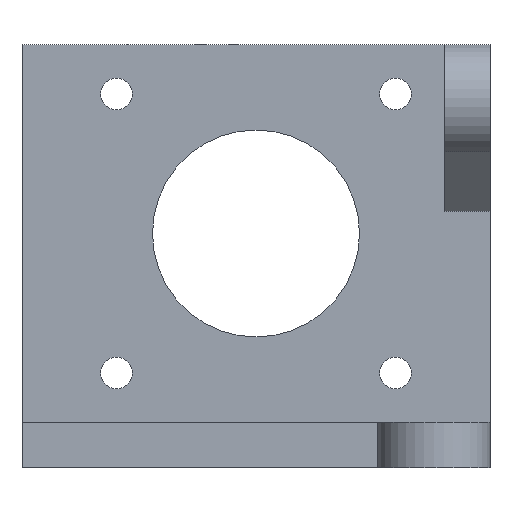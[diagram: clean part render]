
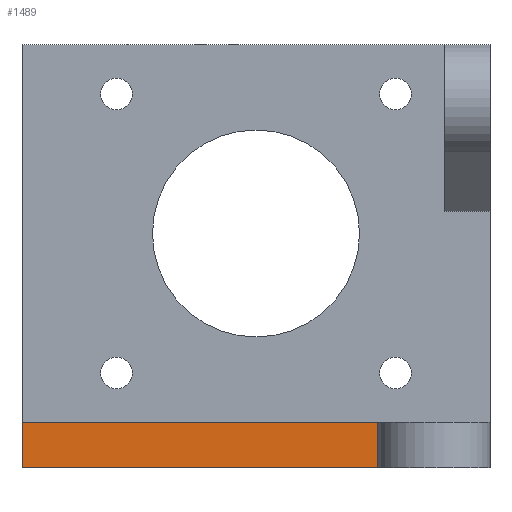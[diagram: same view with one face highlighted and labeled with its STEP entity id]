
A CAD part, front view. The second image highlights one B-rep face of the part: STEP entity #1489.
In plain terms, the highlighted planar face has unit normal (0, -1, 0).
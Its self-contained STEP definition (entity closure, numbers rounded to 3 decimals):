
#154 = PLANE('',#155);
#155 = AXIS2_PLACEMENT_3D('',#156,#157,#158);
#156 = CARTESIAN_POINT('',(0.,0.,21.));
#157 = DIRECTION('',(0.,1.,0.));
#158 = DIRECTION('',(0.,0.,1.));
#170 = VERTEX_POINT('',#171);
#171 = CARTESIAN_POINT('',(-26.,0.,0.));
#187 = PLANE('',#188);
#188 = AXIS2_PLACEMENT_3D('',#189,#190,#191);
#189 = CARTESIAN_POINT('',(-26.,0.,0.));
#190 = DIRECTION('',(1.,0.,0.));
#191 = DIRECTION('',(0.,1.,0.));
#509 = VERTEX_POINT('',#510);
#510 = CARTESIAN_POINT('',(13.5,0.,0.));
#536 = EDGE_CURVE('',#509,#170,#537,.T.);
#537 = SURFACE_CURVE('',#538,(#542,#549),.PCURVE_S1.);
#538 = LINE('',#539,#540);
#539 = CARTESIAN_POINT('',(26.,0.,0.));
#540 = VECTOR('',#541,1.);
#541 = DIRECTION('',(-1.,0.,0.));
#542 = PCURVE('',#154,#543);
#543 = DEFINITIONAL_REPRESENTATION('',(#544),#548);
#544 = LINE('',#545,#546);
#545 = CARTESIAN_POINT('',(-21.,26.));
#546 = VECTOR('',#547,1.);
#547 = DIRECTION('',(0.,-1.));
#548 = ( GEOMETRIC_REPRESENTATION_CONTEXT(2) 
PARAMETRIC_REPRESENTATION_CONTEXT() REPRESENTATION_CONTEXT('2D SPACE',''
  ) );
#549 = PCURVE('',#550,#555);
#550 = PLANE('',#551);
#551 = AXIS2_PLACEMENT_3D('',#552,#553,#554);
#552 = CARTESIAN_POINT('',(26.,0.,0.));
#553 = DIRECTION('',(0.,1.,0.));
#554 = DIRECTION('',(-1.,0.,0.));
#555 = DEFINITIONAL_REPRESENTATION('',(#556),#560);
#556 = LINE('',#557,#558);
#557 = CARTESIAN_POINT('',(0.,0.));
#558 = VECTOR('',#559,1.);
#559 = DIRECTION('',(1.,0.));
#560 = ( GEOMETRIC_REPRESENTATION_CONTEXT(2) 
PARAMETRIC_REPRESENTATION_CONTEXT() REPRESENTATION_CONTEXT('2D SPACE',''
  ) );
#1110 = EDGE_CURVE('',#170,#1111,#1113,.T.);
#1111 = VERTEX_POINT('',#1112);
#1112 = CARTESIAN_POINT('',(-26.,0.,-5.));
#1113 = SURFACE_CURVE('',#1114,(#1118,#1125),.PCURVE_S1.);
#1114 = LINE('',#1115,#1116);
#1115 = CARTESIAN_POINT('',(-26.,0.,0.));
#1116 = VECTOR('',#1117,1.);
#1117 = DIRECTION('',(-0.,-0.,-1.));
#1118 = PCURVE('',#187,#1119);
#1119 = DEFINITIONAL_REPRESENTATION('',(#1120),#1124);
#1120 = LINE('',#1121,#1122);
#1121 = CARTESIAN_POINT('',(0.,0.));
#1122 = VECTOR('',#1123,1.);
#1123 = DIRECTION('',(0.,-1.));
#1124 = ( GEOMETRIC_REPRESENTATION_CONTEXT(2) 
PARAMETRIC_REPRESENTATION_CONTEXT() REPRESENTATION_CONTEXT('2D SPACE',''
  ) );
#1125 = PCURVE('',#550,#1126);
#1126 = DEFINITIONAL_REPRESENTATION('',(#1127),#1131);
#1127 = LINE('',#1128,#1129);
#1128 = CARTESIAN_POINT('',(52.,0.));
#1129 = VECTOR('',#1130,1.);
#1130 = DIRECTION('',(0.,-1.));
#1131 = ( GEOMETRIC_REPRESENTATION_CONTEXT(2) 
PARAMETRIC_REPRESENTATION_CONTEXT() REPRESENTATION_CONTEXT('2D SPACE',''
  ) );
#1149 = PLANE('',#1150);
#1150 = AXIS2_PLACEMENT_3D('',#1151,#1152,#1153);
#1151 = CARTESIAN_POINT('',(0.,44.727,-5.));
#1152 = DIRECTION('',(0.,0.,1.));
#1153 = DIRECTION('',(1.,0.,0.));
#1489 = ADVANCED_FACE('',(#1490),#550,.F.);
#1490 = FACE_BOUND('',#1491,.F.);
#1491 = EDGE_LOOP('',(#1492,#1493,#1521,#1542));
#1492 = ORIENTED_EDGE('',*,*,#536,.F.);
#1493 = ORIENTED_EDGE('',*,*,#1494,.T.);
#1494 = EDGE_CURVE('',#509,#1495,#1497,.T.);
#1495 = VERTEX_POINT('',#1496);
#1496 = CARTESIAN_POINT('',(13.5,0.,-5.));
#1497 = SURFACE_CURVE('',#1498,(#1502,#1509),.PCURVE_S1.);
#1498 = LINE('',#1499,#1500);
#1499 = CARTESIAN_POINT('',(13.5,0.,0.));
#1500 = VECTOR('',#1501,1.);
#1501 = DIRECTION('',(-0.,-0.,-1.));
#1502 = PCURVE('',#550,#1503);
#1503 = DEFINITIONAL_REPRESENTATION('',(#1504),#1508);
#1504 = LINE('',#1505,#1506);
#1505 = CARTESIAN_POINT('',(12.5,0.));
#1506 = VECTOR('',#1507,1.);
#1507 = DIRECTION('',(0.,-1.));
#1508 = ( GEOMETRIC_REPRESENTATION_CONTEXT(2) 
PARAMETRIC_REPRESENTATION_CONTEXT() REPRESENTATION_CONTEXT('2D SPACE',''
  ) );
#1509 = PCURVE('',#1510,#1515);
#1510 = PLANE('',#1511);
#1511 = AXIS2_PLACEMENT_3D('',#1512,#1513,#1514);
#1512 = CARTESIAN_POINT('',(13.5,0.,0.));
#1513 = DIRECTION('',(-1.,0.,0.));
#1514 = DIRECTION('',(0.,-1.,0.));
#1515 = DEFINITIONAL_REPRESENTATION('',(#1516),#1520);
#1516 = LINE('',#1517,#1518);
#1517 = CARTESIAN_POINT('',(0.,0.));
#1518 = VECTOR('',#1519,1.);
#1519 = DIRECTION('',(0.,-1.));
#1520 = ( GEOMETRIC_REPRESENTATION_CONTEXT(2) 
PARAMETRIC_REPRESENTATION_CONTEXT() REPRESENTATION_CONTEXT('2D SPACE',''
  ) );
#1521 = ORIENTED_EDGE('',*,*,#1522,.T.);
#1522 = EDGE_CURVE('',#1495,#1111,#1523,.T.);
#1523 = SURFACE_CURVE('',#1524,(#1528,#1535),.PCURVE_S1.);
#1524 = LINE('',#1525,#1526);
#1525 = CARTESIAN_POINT('',(26.,0.,-5.));
#1526 = VECTOR('',#1527,1.);
#1527 = DIRECTION('',(-1.,0.,0.));
#1528 = PCURVE('',#550,#1529);
#1529 = DEFINITIONAL_REPRESENTATION('',(#1530),#1534);
#1530 = LINE('',#1531,#1532);
#1531 = CARTESIAN_POINT('',(0.,-5.));
#1532 = VECTOR('',#1533,1.);
#1533 = DIRECTION('',(1.,0.));
#1534 = ( GEOMETRIC_REPRESENTATION_CONTEXT(2) 
PARAMETRIC_REPRESENTATION_CONTEXT() REPRESENTATION_CONTEXT('2D SPACE',''
  ) );
#1535 = PCURVE('',#1149,#1536);
#1536 = DEFINITIONAL_REPRESENTATION('',(#1537),#1541);
#1537 = LINE('',#1538,#1539);
#1538 = CARTESIAN_POINT('',(26.,-44.727));
#1539 = VECTOR('',#1540,1.);
#1540 = DIRECTION('',(-1.,0.));
#1541 = ( GEOMETRIC_REPRESENTATION_CONTEXT(2) 
PARAMETRIC_REPRESENTATION_CONTEXT() REPRESENTATION_CONTEXT('2D SPACE',''
  ) );
#1542 = ORIENTED_EDGE('',*,*,#1110,.F.);
